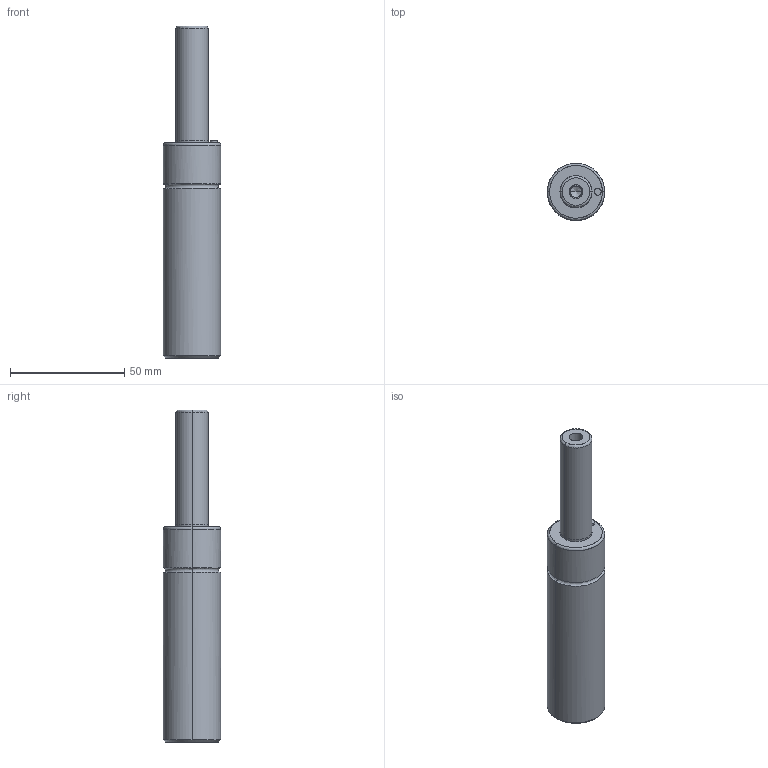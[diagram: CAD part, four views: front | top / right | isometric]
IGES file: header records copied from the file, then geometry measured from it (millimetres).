
Global section: file name: E:\UnigraphicsGraphicData\MISUMI_PRESS-PARTS\IGES\3d_mgsa25-50_04551_r00.igs; native system: NX V5.0; preprocessor: UGS NX IGES V5.0; author: MISUMI; date: 20110105.161433; units: millimetre
Bounding box: 25 x 24.98 x 145 mm (x, y, z)
Surface area: 10928.8 mm2 (no closed solid volume)
Topology: 0 solids, 0 shells, 36 faces, 216 edges, 212 vertices
Faces by surface type: bspline 36
